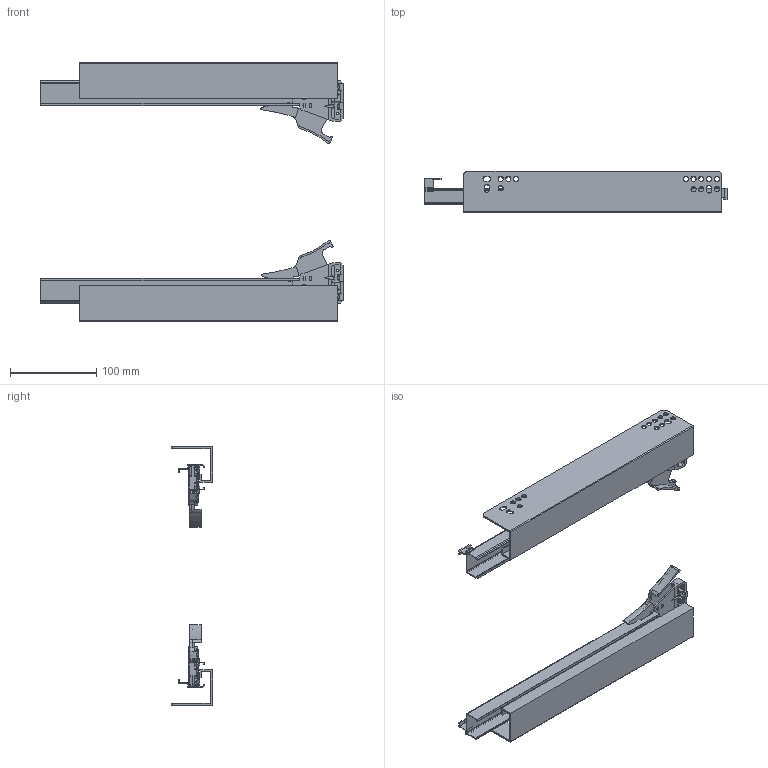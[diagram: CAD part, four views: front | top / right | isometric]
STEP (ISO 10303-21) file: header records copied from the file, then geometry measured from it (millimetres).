
FILE_DESCRIPTION(/* description */ (''),/* implementation_level */ '2;1');
FILE_NAME(/* name */ 'C:\Users\dmitruk\Documents\WORK\НАПРАВЛЯЮЩИЕ\Скрытого монтажа\PUSH\Направляющие скрытого монтажа PUSH TO OPEN\Направляющие скрытого монтажа PUSH TO OPEN-300.stp',/* time_stamp */ '2022-04-22T12:22:49+03:00',/* author */ ('dmitruk'),/* organization */ (''),/* preprocessor_version */ 'ST-DEVELOPER v16.5',/* originating_system */ 'Autodesk Inventor 2017',/* authorisation */ '');
FILE_SCHEMA (('AUTOMOTIVE_DESIGN { 1 0 10303 214 3 1 1 }'));
Length unit declared in the file: millimetre
Products named in the file (13): Направляющие \X2\0441043A
0440044B0442043E0433043E\X0\ монтажа PUSH
 TO OPEN; 3D CP Push; 3D DP Push; 3D CP Push LEFT; 3D DP Push LEFT; Замок Push R; Твердое \X2\04420435043B043E
\X0\1; Твердое \X2\04420435043B043E
\X0\2; Твердое \X2\04420435043B043E
\X0\3; Замок Pusg L; Твердое \X2\04420435043B043E
\X0\1_1; Твердое \X2\04420435043B043E
\X0\2_1; Твердое \X2\04420435043B043E
\X0\3_1
Assembly tree (12 placements, depth 3):
  Направляющие \X2\0441043A
0440044B0442043E0433043E\X0\ монтажа PUSH
 TO OPEN
    3D CP Push
    3D DP Push
    3D CP Push LEFT
    3D DP Push LEFT
    Замок Push R
      Твердое \X2\04420435043B043E
\X0\1
      Твердое \X2\04420435043B043E
\X0\2
      Твердое \X2\04420435043B043E
\X0\3
    Замок Pusg L
      Твердое \X2\04420435043B043E
\X0\1_1
      Твердое \X2\04420435043B043E
\X0\2_1
      Твердое \X2\04420435043B043E
\X0\3_1
Bounding box: 351 x 48 x 300 mm (x, y, z)
Volume: 194803.3 mm3; surface area: 243368.9 mm2
Topology: 10 solids, 10 shells, 812 faces, 2272 edges, 1504 vertices
Faces by surface type: plane 542, cylinder 250, cone 10, bspline 6, sphere 2, torus 2
Full cylindrical faces by diameter (mm): 3 x12, 6 x26
Entity records: 26647 total; most frequent: CARTESIAN_POINT 4887, ORIENTED_EDGE 4428, DIRECTION 4392, EDGE_CURVE 2214, LINE 1646, VECTOR 1646, VERTEX_POINT 1492, AXIS2_PLACEMENT_3D 1373
